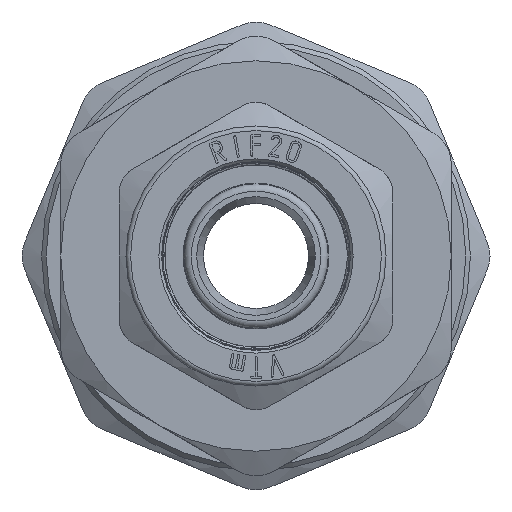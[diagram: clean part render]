
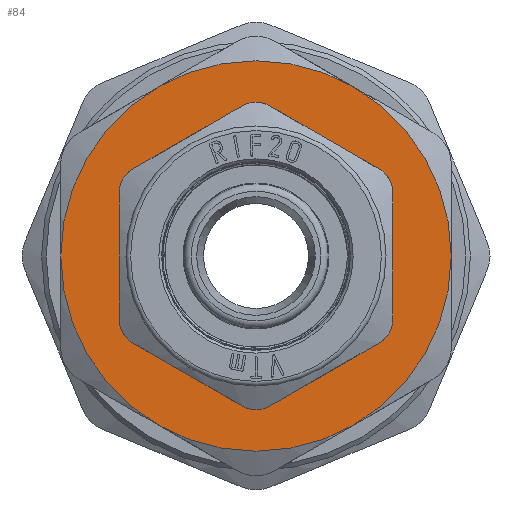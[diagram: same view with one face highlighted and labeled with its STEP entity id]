
A CAD part, front view. The second image highlights one B-rep face of the part: STEP entity #84.
In plain terms, the highlighted planar face has unit normal (0, -1, 0).
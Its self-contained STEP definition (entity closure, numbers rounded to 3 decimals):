
#84=ADVANCED_FACE('',(#921,#923),#925,.F.);
#921=FACE_BOUND('',#922,.T.);
#922=EDGE_LOOP('',(#5106,#5107,#5108));
#923=FACE_BOUND('',#924,.T.);
#924=EDGE_LOOP('',(#5109));
#925=PLANE('',#926);
#926=AXIS2_PLACEMENT_3D('',#927,#928,#929);
#927=CARTESIAN_POINT('',(0.,-3.5,0.));
#928=DIRECTION('',(0.,1.,0.));
#929=DIRECTION('',(-1.,0.,0.));
#5106=ORIENTED_EDGE('',*,*,#8917,.T.);
#5107=ORIENTED_EDGE('',*,*,#8918,.T.);
#5108=ORIENTED_EDGE('',*,*,#8919,.T.);
#5109=ORIENTED_EDGE('',*,*,#8749,.F.);
#8749=EDGE_CURVE('',#10323,#10323,#10324,.T.);
#8917=EDGE_CURVE('',#10650,#10651,#10652,.F.);
#8918=EDGE_CURVE('',#10651,#10653,#10654,.F.);
#8919=EDGE_CURVE('',#10653,#10650,#10655,.F.);
#10323=VERTEX_POINT('',#13021);
#10324=CIRCLE('',#13022,13.221);
#10650=VERTEX_POINT('',#14387);
#10651=VERTEX_POINT('',#14388);
#10652=CIRCLE('',#14389,21.4);
#10653=VERTEX_POINT('',#14393);
#10654=CIRCLE('',#14394,21.4);
#10655=CIRCLE('',#14398,21.4);
#13021=CARTESIAN_POINT('',(13.221,-3.5,0.));
#13022=AXIS2_PLACEMENT_3D('',#13023,#13024,#13025);
#13023=CARTESIAN_POINT('',(0.,-3.5,0.));
#13024=DIRECTION('',(0.,-1.,0.));
#13025=DIRECTION('',(1.,0.,0.));
#14387=CARTESIAN_POINT('',(21.4,-3.5,0.));
#14388=CARTESIAN_POINT('',(-10.7,-3.5,18.533));
#14389=AXIS2_PLACEMENT_3D('',#14390,#14391,#14392);
#14390=CARTESIAN_POINT('',(0.,-3.5,0.));
#14391=DIRECTION('',(0.,1.,0.));
#14392=DIRECTION('',(-0.5,0.,0.866));
#14393=CARTESIAN_POINT('',(-21.4,-3.5,0.));
#14394=AXIS2_PLACEMENT_3D('',#14395,#14396,#14397);
#14395=CARTESIAN_POINT('',(0.,-3.5,0.));
#14396=DIRECTION('',(0.,1.,0.));
#14397=DIRECTION('',(-1.,0.,0.));
#14398=AXIS2_PLACEMENT_3D('',#14399,#14400,#14401);
#14399=CARTESIAN_POINT('',(0.,-3.5,0.));
#14400=DIRECTION('',(0.,1.,0.));
#14401=DIRECTION('',(1.,0.,0.));
